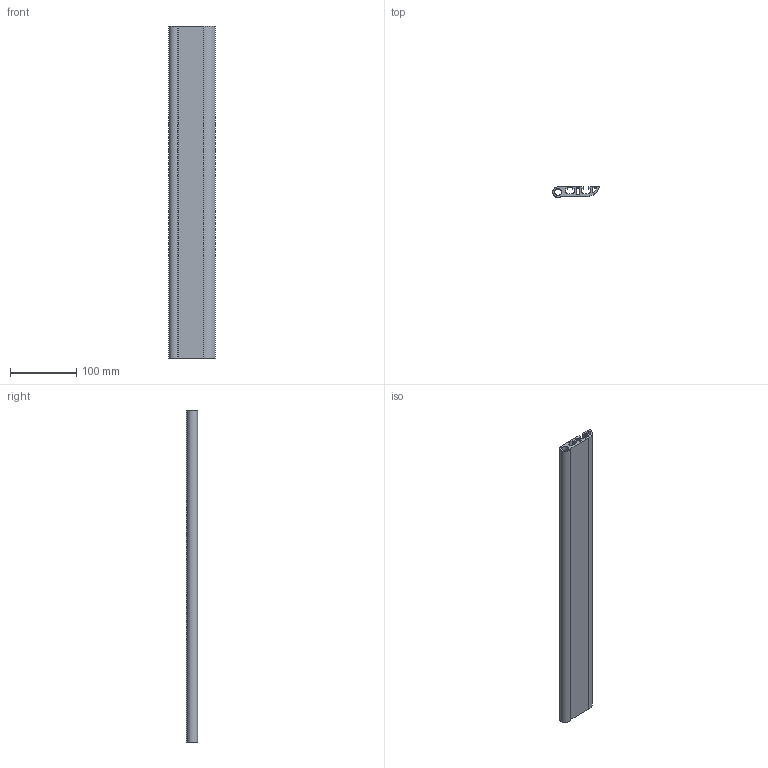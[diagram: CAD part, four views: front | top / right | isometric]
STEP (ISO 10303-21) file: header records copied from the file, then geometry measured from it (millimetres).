
FILE_DESCRIPTION (( 'STEP AP214' ), '1' );
FILE_NAME ('A40777.step', '2024-12-03T16:12:58', ( '' ), ( '' ), 'SwSTEP 2.0', 'SolidWorks 2023', '' );
FILE_SCHEMA (( 'AUTOMOTIVE_DESIGN' ));
Length unit declared in the file: millimetre
Products named in the file (1): A40777
Bounding box: 69.77 x 16.98 x 500 mm (x, y, z)
Volume: 276920.9 mm3; surface area: 158443.3 mm2
Topology: 1 solids, 1 shells, 53 faces, 153 edges, 102 vertices
Faces by surface type: plane 30, cylinder 23
Full cylindrical faces by diameter (mm): 10.25 x1
Entity records: 1787 total; most frequent: CARTESIAN_POINT 308, DIRECTION 306, ORIENTED_EDGE 304, EDGE_CURVE 152, VECTOR 106, LINE 106, VERTEX_POINT 102, AXIS2_PLACEMENT_3D 100
